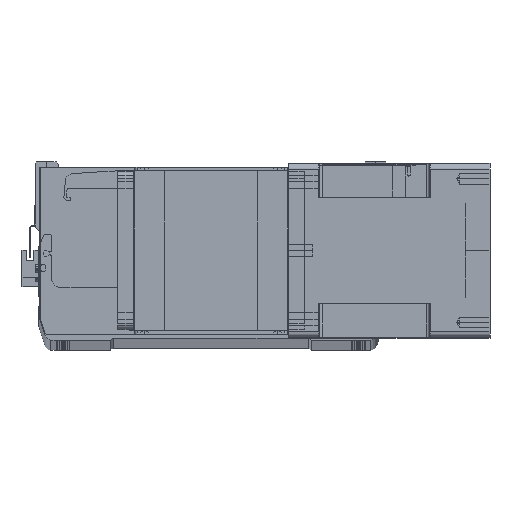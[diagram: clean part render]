
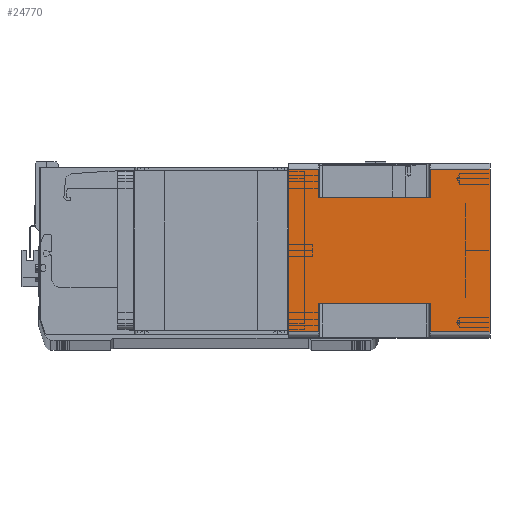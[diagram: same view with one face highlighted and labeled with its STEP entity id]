
A CAD part, top view. The second image highlights one B-rep face of the part: STEP entity #24770.
In plain terms, the highlighted planar face has unit normal (0, 0, 1) as drawn and (1, 0, 0) by its records, which use the part's own axes.
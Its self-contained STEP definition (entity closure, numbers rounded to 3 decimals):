
#63 = CARTESIAN_POINT ( 'NONE',  ( 71., 66., -164. ) ) ;
#1923 = DIRECTION ( 'NONE',  ( 0., -1., 0. ) ) ;
#2159 = EDGE_CURVE ( 'NONE', #36192, #16254, #28086, .T. ) ;
#2863 = DIRECTION ( 'NONE',  ( 0., 1., 0. ) ) ;
#3428 = VERTEX_POINT ( 'NONE', #33924 ) ;
#3611 = VECTOR ( 'NONE', #34117, 1000. ) ;
#3817 = LINE ( 'NONE', #9150, #22150 ) ;
#4152 = VECTOR ( 'NONE', #32981, 1000. ) ;
#4316 = LINE ( 'NONE', #22714, #33992 ) ;
#4713 = LINE ( 'NONE', #28071, #35789 ) ;
#5313 = LINE ( 'NONE', #32717, #27448 ) ;
#5628 = VERTEX_POINT ( 'NONE', #7201 ) ;
#5738 = ORIENTED_EDGE ( 'NONE', *, *, #25859, .F. ) ;
#5858 = EDGE_CURVE ( 'NONE', #24266, #5628, #37147, .T. ) ;
#6128 = AXIS2_PLACEMENT_3D ( 'NONE', #28198, #13087, #34118 ) ;
#6314 = ORIENTED_EDGE ( 'NONE', *, *, #25532, .T. ) ;
#6643 = ORIENTED_EDGE ( 'NONE', *, *, #9275, .F. ) ;
#7201 = CARTESIAN_POINT ( 'NONE',  ( 71., -66., -115.5 ) ) ;
#7429 = CARTESIAN_POINT ( 'NONE',  ( 71., -43., -115.5 ) ) ;
#7528 = CARTESIAN_POINT ( 'NONE',  ( 71., 43., -115.5 ) ) ;
#7608 = VERTEX_POINT ( 'NONE', #20949 ) ;
#8332 = VERTEX_POINT ( 'NONE', #32933 ) ;
#9150 = CARTESIAN_POINT ( 'NONE',  ( 71., -66., -24.5 ) ) ;
#9232 = DIRECTION ( 'NONE',  ( 0., 0., -1. ) ) ;
#9275 = EDGE_CURVE ( 'NONE', #19742, #36588, #24270, .T. ) ;
#11395 = ORIENTED_EDGE ( 'NONE', *, *, #38032, .T. ) ;
#11521 = VECTOR ( 'NONE', #31996, 1000. ) ;
#11624 = ORIENTED_EDGE ( 'NONE', *, *, #5858, .F. ) ;
#12476 = EDGE_CURVE ( 'NONE', #3428, #19156, #27238, .T. ) ;
#12561 = ORIENTED_EDGE ( 'NONE', *, *, #2159, .F. ) ;
#12873 = ORIENTED_EDGE ( 'NONE', *, *, #38214, .T. ) ;
#13087 = DIRECTION ( 'NONE',  ( 1., 0., 0. ) ) ;
#13417 = LINE ( 'NONE', #63, #18143 ) ;
#14884 = FACE_OUTER_BOUND ( 'NONE', #37993, .T. ) ;
#15511 = EDGE_CURVE ( 'NONE', #20500, #16254, #28412, .T. ) ;
#15942 = EDGE_CURVE ( 'NONE', #24266, #23678, #31212, .T. ) ;
#16254 = VERTEX_POINT ( 'NONE', #7528 ) ;
#17112 = CARTESIAN_POINT ( 'NONE',  ( 71., 66., -164. ) ) ;
#18143 = VECTOR ( 'NONE', #26904, 1000. ) ;
#19153 = VECTOR ( 'NONE', #9232, 1000. ) ;
#19156 = VERTEX_POINT ( 'NONE', #24479 ) ;
#19344 = DIRECTION ( 'NONE',  ( 0., -1., 0. ) ) ;
#19742 = VERTEX_POINT ( 'NONE', #7429 ) ;
#20500 = VERTEX_POINT ( 'NONE', #26466 ) ;
#20949 = CARTESIAN_POINT ( 'NONE',  ( 71., 66., -24.5 ) ) ;
#21761 = ORIENTED_EDGE ( 'NONE', *, *, #26377, .T. ) ;
#21881 = EDGE_CURVE ( 'NONE', #19742, #5628, #4316, .T. ) ;
#22150 = VECTOR ( 'NONE', #30089, 1000. ) ;
#22410 = PLANE ( 'NONE',  #6128 ) ;
#22714 = CARTESIAN_POINT ( 'NONE',  ( 71., -66., -115.5 ) ) ;
#23678 = VERTEX_POINT ( 'NONE', #17112 ) ;
#24266 = VERTEX_POINT ( 'NONE', #27482 ) ;
#24270 = LINE ( 'NONE', #37180, #3611 ) ;
#24368 = ORIENTED_EDGE ( 'NONE', *, *, #21881, .T. ) ;
#24479 = CARTESIAN_POINT ( 'NONE',  ( 71., 66., 0. ) ) ;
#24770 = ADVANCED_FACE ( 'NONE', ( #14884 ), #22410, .T. ) ;
#25532 = EDGE_CURVE ( 'NONE', #7608, #19156, #13417, .T. ) ;
#25859 = EDGE_CURVE ( 'NONE', #8332, #3428, #35503, .T. ) ;
#25946 = CARTESIAN_POINT ( 'NONE',  ( 71., -66., -164. ) ) ;
#26377 = EDGE_CURVE ( 'NONE', #8332, #36588, #5313, .T. ) ;
#26466 = CARTESIAN_POINT ( 'NONE',  ( 71., 66., -115.5 ) ) ;
#26805 = ORIENTED_EDGE ( 'NONE', *, *, #15511, .T. ) ;
#26895 = CARTESIAN_POINT ( 'NONE',  ( 71., -43., -24.5 ) ) ;
#26904 = DIRECTION ( 'NONE',  ( 0., 0., 1. ) ) ;
#27124 = CARTESIAN_POINT ( 'NONE',  ( 71., 43., -164. ) ) ;
#27238 = LINE ( 'NONE', #31722, #27741 ) ;
#27448 = VECTOR ( 'NONE', #2863, 1000. ) ;
#27482 = CARTESIAN_POINT ( 'NONE',  ( 71., -66., -164. ) ) ;
#27741 = VECTOR ( 'NONE', #32250, 1000. ) ;
#27933 = VECTOR ( 'NONE', #19344, 1000. ) ;
#28071 = CARTESIAN_POINT ( 'NONE',  ( 71., 66., -164. ) ) ;
#28086 = LINE ( 'NONE', #27124, #19153 ) ;
#28198 = CARTESIAN_POINT ( 'NONE',  ( 71., -66., -164. ) ) ;
#28412 = LINE ( 'NONE', #33448, #27933 ) ;
#30089 = DIRECTION ( 'NONE',  ( 0., 1., 0. ) ) ;
#30235 = CARTESIAN_POINT ( 'NONE',  ( 71., -66., -164. ) ) ;
#31212 = LINE ( 'NONE', #36037, #38754 ) ;
#31722 = CARTESIAN_POINT ( 'NONE',  ( 71., -66., 0. ) ) ;
#31996 = DIRECTION ( 'NONE',  ( 0., 0., 1. ) ) ;
#32250 = DIRECTION ( 'NONE',  ( 0., 1., 0. ) ) ;
#32717 = CARTESIAN_POINT ( 'NONE',  ( 71., -43., -24.5 ) ) ;
#32789 = ORIENTED_EDGE ( 'NONE', *, *, #12476, .F. ) ;
#32933 = CARTESIAN_POINT ( 'NONE',  ( 71., -66., -24.5 ) ) ;
#32981 = DIRECTION ( 'NONE',  ( 0., 0., 1. ) ) ;
#33265 = DIRECTION ( 'NONE',  ( 0., 1., 0. ) ) ;
#33373 = CARTESIAN_POINT ( 'NONE',  ( 71., 43., -24.5 ) ) ;
#33448 = CARTESIAN_POINT ( 'NONE',  ( 71., 43., -115.5 ) ) ;
#33924 = CARTESIAN_POINT ( 'NONE',  ( 71., -66., 0. ) ) ;
#33992 = VECTOR ( 'NONE', #1923, 1000. ) ;
#34117 = DIRECTION ( 'NONE',  ( 0., 0., 1. ) ) ;
#34118 = DIRECTION ( 'NONE',  ( 0., 1., 0. ) ) ;
#34232 = DIRECTION ( 'NONE',  ( 0., 0., 1. ) ) ;
#35503 = LINE ( 'NONE', #25946, #11521 ) ;
#35789 = VECTOR ( 'NONE', #34232, 1000. ) ;
#36037 = CARTESIAN_POINT ( 'NONE',  ( 71., -66., -164. ) ) ;
#36192 = VERTEX_POINT ( 'NONE', #33373 ) ;
#36588 = VERTEX_POINT ( 'NONE', #26895 ) ;
#37147 = LINE ( 'NONE', #30235, #4152 ) ;
#37180 = CARTESIAN_POINT ( 'NONE',  ( 71., -43., -164. ) ) ;
#37993 = EDGE_LOOP ( 'NONE', ( #6643, #24368, #11624, #38600, #12873, #26805, #12561, #11395, #6314, #32789, #5738, #21761 ) ) ;
#38032 = EDGE_CURVE ( 'NONE', #36192, #7608, #3817, .T. ) ;
#38214 = EDGE_CURVE ( 'NONE', #23678, #20500, #4713, .T. ) ;
#38600 = ORIENTED_EDGE ( 'NONE', *, *, #15942, .T. ) ;
#38754 = VECTOR ( 'NONE', #33265, 1000. ) ;
